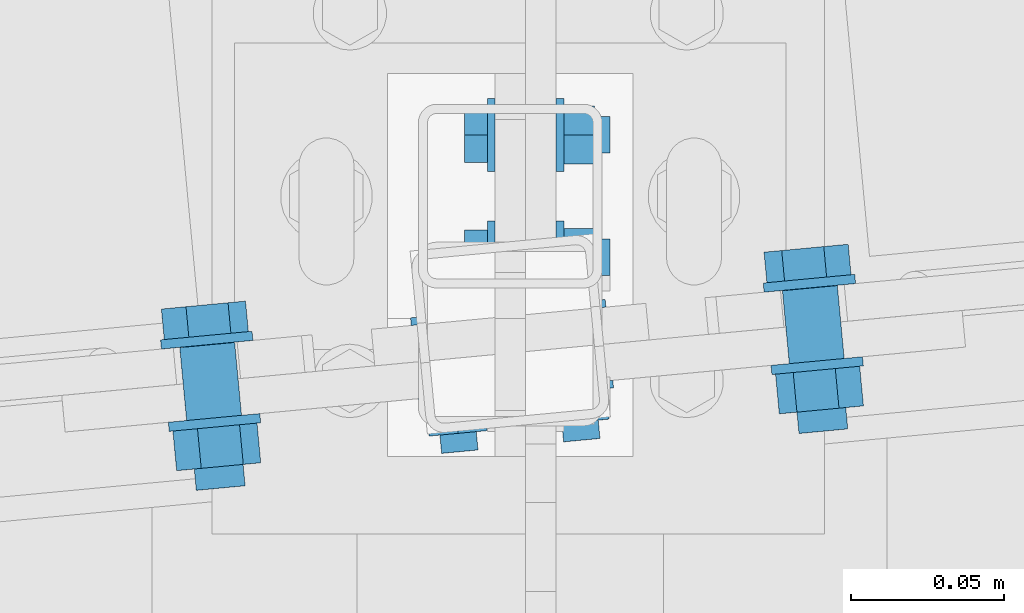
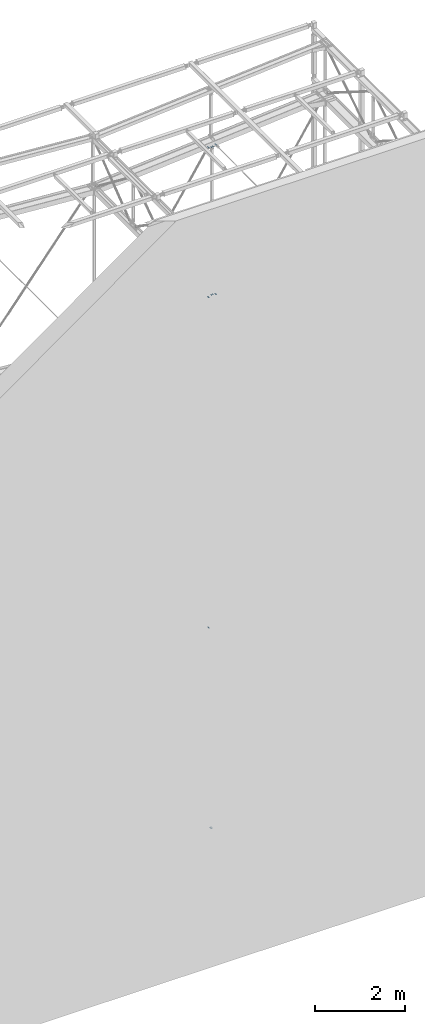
# One storey, part 262 of 271: 8 mechanical fasteners, 7 elements without a shape of their own.
"""IFC2X3 building model written with IfcOpenShell, lengths in millimetres."""

from ifc_helpers import new_model, si_unit, frame, origin_with_axes, origin_2d_with_axis, place, context, subcontext, project, spatial, polyline, circle, outline, extrude, source, transform, mapped, material, type_object, element, aggregate, save


model = new_model("IFC2X3")

# Units and contexts
model_context = context("Model", 3, precision=1e-05, world=origin_with_axes())
body_context = subcontext(model_context, "Body", "Model", "MODEL_VIEW")
ifc_project = project(units=[si_unit("LENGTHUNIT", "METRE", prefix="MILLI"), si_unit("AREAUNIT", "SQUARE_METRE"), si_unit("VOLUMEUNIT", "CUBIC_METRE"), si_unit("MASSUNIT", "GRAM", prefix="KILO"), si_unit("TIMEUNIT", "SECOND"), si_unit("PLANEANGLEUNIT", "RADIAN"), si_unit("SOLIDANGLEUNIT", "STERADIAN"), si_unit("THERMODYNAMICTEMPERATUREUNIT", "DEGREE_CELSIUS"), si_unit("LUMINOUSINTENSITYUNIT", "LUMEN")], contexts=[model_context])

# Site, building, storey
site_placement = place(None, origin_with_axes())
site = spatial("IfcSite", under=ifc_project, at=site_placement, Name="Undefined", CompositionType="ELEMENT")
building_placement = place(site_placement, origin_with_axes())
building = spatial("IfcBuilding", under=site, at=building_placement, Name="Undefined", CompositionType="ELEMENT")
storey_placement = place(building_placement, origin_with_axes())
storey = spatial("IfcBuildingStorey", under=building, at=storey_placement, Name="Undefined", CompositionType="ELEMENT", Elevation=0.0)

# Assembly, mechanical fastener
assembly_1_placement = place(storey_placement, origin_with_axes())
assembly_1 = element("IfcElementAssembly", 1, at=assembly_1_placement, inside=storey, AssemblyPlace="NOTDEFINED", PredefinedType="RIGID_FRAME")
ifc_material = material(Name="Undefined")
mechanical_fastener_type = type_object("IfcMechanicalFastenerType", Name="Bolt assembly")
shared_shape_1 = source(origin_with_axes(), body_context, "Body", "SweptSolid", [
    extrude(circle(Radius=6.5, at=origin_2d_with_axis()), frame((0.0, -5.1, 0.0), z_axis=(0.0, 1.0, 0.0), x_axis=(1.0, 0.0, 0.0)), (0.0, 0.0, 1.0), 10.1),
    extrude(circle(Radius=6.5, at=origin_2d_with_axis()), frame((0.0, -14.9000000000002, 0.0), z_axis=(0.0, 1.0, 0.0), x_axis=(1.0, 0.0, 0.0)), (0.0, 0.0, 1.0), 10.0),
    extrude(outline(polyline([(10.39230484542, 0.0), (5.19615242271, 9.00000000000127), (-5.19615242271, 9.00000000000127), (-10.39230484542, 0.0), (-5.19615242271, -9.00000000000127), (5.19615242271, -9.00000000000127), (10.39230484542, 0.0)])), frame((0.0, -25.0000000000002, 0.0), z_axis=(0.0, 1.0, 0.0), x_axis=(1.0, 0.0, 0.0)), (0.0, 0.0, 1.0), 7.5),
    extrude(circle(Radius=6.0, at=origin_2d_with_axis()), frame((0.0, -17.5000000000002, 0.0), z_axis=(0.0, 1.0, 0.0), x_axis=(1.0, 0.0, 0.0)), (0.0, 0.0, 1.0), 40.0),
    extrude(circle(Radius=12.0, at=origin_2d_with_axis()), frame((0.0, -17.5000000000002, 0.0), z_axis=(0.0, 1.0, 0.0), x_axis=(1.0, 0.0, 0.0)), (0.0, 0.0, 1.0), 2.5),
    extrude(circle(Radius=12.0, at=origin_2d_with_axis()), frame((0.0, 5.00000000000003, 0.0), z_axis=(0.0, 1.0, 0.0), x_axis=(1.0, 0.0, 0.0)), (0.0, 0.0, 1.0), 2.5),
    extrude(outline(polyline([(10.96965511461, 0.0), (5.484827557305, 9.50000000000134), (-5.484827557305, 9.50000000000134), (-10.96965511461, 0.0), (-5.484827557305, -9.50000000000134), (5.484827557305, -9.50000000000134), (10.96965511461, 0.0)])), frame((0.0, 7.50000000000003, 0.0), z_axis=(0.0, 1.0, 0.0), x_axis=(1.0, 0.0, 0.0)), (0.0, 0.0, 1.0), 10.0),
])
mechanical_fastener_1_placement = place(assembly_1_placement, frame((9538.37568709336, 4050.32498425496, 64.6500000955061), z_axis=(0.0, 1.0, 0.0), x_axis=(0.0, 0.0, 1.0)))
mechanical_fastener_1 = element("IfcMechanicalFastener", 2, at=mechanical_fastener_1_placement, type_object=mechanical_fastener_type, material=ifc_material, Name="Bolt assembly", NominalDiameter=12.0, NominalLength=40.0, context=body_context, shape_type="MappedRepresentation", body=[
    mapped(shared_shape_1, transform((0.0, 0.0, -20.0))),
    mapped(shared_shape_1, transform((0.0, 0.0, 20.0))),
])
aggregate(assembly_1, [mechanical_fastener_1])

# Assembly, mechanical fasteners
assembly_2_placement = place(storey_placement, origin_with_axes())
assembly_2 = element("IfcElementAssembly", 3, at=assembly_2_placement, inside=storey, AssemblyPlace="NOTDEFINED", PredefinedType="RIGID_FRAME")
shared_shape_2 = source(origin_with_axes(), body_context, "Body", "SweptSolid", [
    extrude(circle(Radius=6.5, at=origin_2d_with_axis()), frame((0.0, -6.1, 0.0), z_axis=(0.0, 1.0, 0.0), x_axis=(1.0, 0.0, 0.0)), (0.0, 0.0, 1.0), 12.1),
    extrude(circle(Radius=6.5, at=origin_2d_with_axis()), frame((0.0, -17.9, 0.0), z_axis=(0.0, 1.0, 0.0), x_axis=(1.0, 0.0, 0.0)), (0.0, 0.0, 1.0), 12.0),
    extrude(outline(polyline([(10.39230484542, 0.0), (5.19615242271, 9.00000000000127), (-5.19615242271, 9.00000000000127), (-10.39230484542, 0.0), (-5.19615242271, -9.00000000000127), (5.19615242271, -9.00000000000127), (10.39230484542, 0.0)])), frame((0.0, -28.0, 0.0), z_axis=(0.0, 1.0, 0.0), x_axis=(1.0, 0.0, 0.0)), (0.0, 0.0, 1.0), 7.5),
    extrude(circle(Radius=6.0, at=origin_2d_with_axis()), frame((0.0, -20.5, 0.0), z_axis=(0.0, 1.0, 0.0), x_axis=(1.0, 0.0, 0.0)), (0.0, 0.0, 1.0), 45.0),
    extrude(circle(Radius=12.0, at=origin_2d_with_axis()), frame((0.0, -20.5, 0.0), z_axis=(0.0, 1.0, 0.0), x_axis=(1.0, 0.0, 0.0)), (0.0, 0.0, 1.0), 2.5),
    extrude(circle(Radius=12.0, at=origin_2d_with_axis()), frame((0.0, 6.0, 0.0), z_axis=(0.0, 1.0, 0.0), x_axis=(1.0, 0.0, 0.0)), (0.0, 0.0, 1.0), 2.5),
    extrude(outline(polyline([(10.96965511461, 0.0), (5.484827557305, 9.50000000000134), (-5.484827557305, 9.50000000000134), (-10.96965511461, 0.0), (-5.484827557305, -9.50000000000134), (5.484827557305, -9.50000000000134), (10.96965511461, 0.0)])), frame((0.0, 8.5, 0.0), z_axis=(0.0, 1.0, 0.0), x_axis=(1.0, 0.0, 0.0)), (0.0, 0.0, 1.0), 10.0),
])
mechanical_fastener_2_placement = place(assembly_2_placement, frame((9529.52289890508, 3993.16453909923, 14487.6614744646), z_axis=(0.995579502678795, 0.0939225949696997, 0.0), x_axis=(0.0, 0.0, 1.0)))
mechanical_fastener_2 = element("IfcMechanicalFastener", 4, at=mechanical_fastener_2_placement, type_object=mechanical_fastener_type, material=ifc_material, Name="Bolt assembly", NominalDiameter=12.0, NominalLength=45.0, context=body_context, shape_type="MappedRepresentation", body=[
    mapped(shared_shape_2, transform((0.0, 0.0, -20.0))),
    mapped(shared_shape_2, transform((0.0, 0.0, 20.0))),
])
mechanical_fastener_3_placement = place(assembly_2_placement, frame((9529.52149814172, 3993.17938719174, 18481.0373809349), z_axis=(-0.995579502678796, -0.0939225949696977, 0.0), x_axis=(0.0, 0.0, -1.0)))
mechanical_fastener_3 = element("IfcMechanicalFastener", 5, at=mechanical_fastener_3_placement, type_object=mechanical_fastener_type, material=ifc_material, Name="Bolt assembly", NominalDiameter=12.0, NominalLength=45.0, context=body_context, shape_type="MappedRepresentation", body=[
    mapped(shared_shape_2, transform((0.0, 0.0, -20.0))),
    mapped(shared_shape_2, transform((0.0, 0.0, 20.0))),
])
aggregate(assembly_2, [mechanical_fastener_2, mechanical_fastener_3])

# Assembly, mechanical fastener
assembly_3_placement = place(storey_placement, origin_with_axes())
assembly_3 = element("IfcElementAssembly", 6, at=assembly_3_placement, inside=storey, AssemblyPlace="NOTDEFINED", PredefinedType="RIGID_FRAME")
shared_shape_3 = source(origin_with_axes(), body_context, "Body", "SweptSolid", [
    extrude(circle(Radius=9.0, at=origin_2d_with_axis()), frame((0.0, -6.10886097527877, 0.0), z_axis=(0.0, 1.0, 0.0), x_axis=(1.0, 0.0, 0.0)), (0.0, 0.0, 1.0), 12.1),
    extrude(circle(Radius=9.0, at=origin_2d_with_axis()), frame((0.0, -17.9116983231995, 0.0), z_axis=(0.0, 1.0, 0.0), x_axis=(1.0, 0.0, 0.0)), (0.0, 0.0, 1.0), 12.0),
    extrude(outline(polyline([(13.85640646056, 0.0), (6.92820323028, 12.0000000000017), (-6.92820323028, 12.0000000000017), (-13.85640646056, 0.0), (-6.92820323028, -12.0000000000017), (6.92820323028, -12.0000000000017), (13.85640646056, 0.0)])), frame((0.0, -31.0116983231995, 0.0), z_axis=(0.0, 1.0, 0.0), x_axis=(1.0, 0.0, 0.0)), (0.0, 0.0, 1.0), 10.0),
    extrude(circle(Radius=8.0, at=origin_2d_with_axis()), frame((0.0, -21.0116983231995, 0.0), z_axis=(0.0, 1.0, 0.0), x_axis=(1.0, 0.0, 0.0)), (0.0, 0.0, 1.0), 50.0),
    extrude(circle(Radius=15.0, at=origin_2d_with_axis()), frame((0.0, -21.0116983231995, 0.0), z_axis=(0.0, 1.0, 0.0), x_axis=(1.0, 0.0, 0.0)), (0.0, 0.0, 1.0), 3.0),
    extrude(circle(Radius=15.0, at=origin_2d_with_axis()), frame((0.0, 5.99113906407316, 0.0), z_axis=(0.0, 1.0, 0.0), x_axis=(1.0, 0.0, 0.0)), (0.0, 0.0, 1.0), 3.0),
    extrude(outline(polyline([(13.85640646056, 0.0), (6.92820323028, 12.0000000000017), (-6.92820323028, 12.0000000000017), (-13.85640646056, 0.0), (-6.92820323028, -12.0000000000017), (6.92820323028, -12.0000000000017), (13.85640646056, 0.0)])), frame((0.0, 8.99113906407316, 0.0), z_axis=(0.0, 1.0, 0.0), x_axis=(1.0, 0.0, 0.0)), (0.0, 0.0, 1.0), 13.0),
])
mechanical_fastener_4_placement = place(assembly_3_placement, frame((9627.87815488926, 4002.43443657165, 14463.87194111), z_axis=(0.81251863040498, 0.0766527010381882, -0.57787354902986), x_axis=(0.575326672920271, 0.0541946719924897, 0.816126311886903)))
mechanical_fastener_4 = element("IfcMechanicalFastener", 7, at=mechanical_fastener_4_placement, type_object=mechanical_fastener_type, material=ifc_material, Name="Bolt assembly", NominalDiameter=16.0, NominalLength=50.0, context=body_context, shape_type="MappedRepresentation", body=[
    mapped(shared_shape_3, transform((0.0, 0.0, 0.0))),
])
aggregate(assembly_3, [mechanical_fastener_4])

assembly_4_placement = place(storey_placement, origin_with_axes())
assembly_4 = element("IfcElementAssembly", 8, at=assembly_4_placement, inside=storey, AssemblyPlace="NOTDEFINED", PredefinedType="RIGID_FRAME")
mechanical_fastener_5_placement = place(assembly_4_placement, frame((9627.87756334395, 4002.44936120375, 18504.8269107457), z_axis=(-0.812518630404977, -0.0766527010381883, -0.577873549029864), x_axis=(0.575326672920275, 0.0541946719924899, -0.8161263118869)))
mechanical_fastener_5 = element("IfcMechanicalFastener", 9, at=mechanical_fastener_5_placement, type_object=mechanical_fastener_type, material=ifc_material, Name="Bolt assembly", NominalDiameter=16.0, NominalLength=50.0, context=body_context, shape_type="MappedRepresentation", body=[
    mapped(shared_shape_3, transform((0.0, 0.0, 0.0))),
])
aggregate(assembly_4, [mechanical_fastener_5])

assembly_5_placement = place(storey_placement, origin_with_axes())
assembly_5 = element("IfcElementAssembly", 10, at=assembly_5_placement, inside=storey, AssemblyPlace="NOTDEFINED", PredefinedType="RIGID_FRAME")
shared_shape_4 = source(origin_with_axes(), body_context, "Body", "SweptSolid", [
    extrude(circle(Radius=9.0, at=origin_2d_with_axis()), frame((0.0, -6.108183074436, 0.0), z_axis=(0.0, 1.0, 0.0), x_axis=(1.0, 0.0, 0.0)), (0.0, 0.0, 1.0), 12.1),
    extrude(circle(Radius=9.0, at=origin_2d_with_axis()), frame((0.0, -17.9108111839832, 0.0), z_axis=(0.0, 1.0, 0.0), x_axis=(1.0, 0.0, 0.0)), (0.0, 0.0, 1.0), 12.0),
    extrude(outline(polyline([(13.85640646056, 0.0), (6.92820323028, 12.0000000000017), (-6.92820323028, 12.0000000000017), (-13.85640646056, 0.0), (-6.92820323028, -12.0000000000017), (6.92820323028, -12.0000000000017), (13.85640646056, 0.0)])), frame((0.0, -31.0108111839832, 0.0), z_axis=(0.0, 1.0, 0.0), x_axis=(1.0, 0.0, 0.0)), (0.0, 0.0, 1.0), 10.0),
    extrude(circle(Radius=8.0, at=origin_2d_with_axis()), frame((0.0, -21.0108111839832, 0.0), z_axis=(0.0, 1.0, 0.0), x_axis=(1.0, 0.0, 0.0)), (0.0, 0.0, 1.0), 50.0),
    extrude(circle(Radius=15.0, at=origin_2d_with_axis()), frame((0.0, -21.0108111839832, 0.0), z_axis=(0.0, 1.0, 0.0), x_axis=(1.0, 0.0, 0.0)), (0.0, 0.0, 1.0), 3.0),
    extrude(circle(Radius=15.0, at=origin_2d_with_axis()), frame((0.0, 5.99181695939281, 0.0), z_axis=(0.0, 1.0, 0.0), x_axis=(1.0, 0.0, 0.0)), (0.0, 0.0, 1.0), 3.0),
    extrude(outline(polyline([(13.85640646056, 0.0), (6.92820323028, 12.0000000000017), (-6.92820323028, 12.0000000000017), (-13.85640646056, 0.0), (-6.92820323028, -12.0000000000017), (6.92820323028, -12.0000000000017), (13.85640646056, 0.0)])), frame((0.0, 8.99181695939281, 0.0), z_axis=(0.0, 1.0, 0.0), x_axis=(1.0, 0.0, 0.0)), (0.0, 0.0, 1.0), 13.0),
])
mechanical_fastener_6_placement = place(assembly_5_placement, frame((9431.12186560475, 3983.87320332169, 14462.2412136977), z_axis=(0.809177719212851, 0.0763375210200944, 0.58258390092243), x_axis=(-0.580001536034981, -0.0547925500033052, 0.812770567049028)))
mechanical_fastener_6 = element("IfcMechanicalFastener", 11, at=mechanical_fastener_6_placement, type_object=mechanical_fastener_type, material=ifc_material, Name="Bolt assembly", NominalDiameter=16.0, NominalLength=50.0, context=body_context, shape_type="MappedRepresentation", body=[
    mapped(shared_shape_4, transform((0.0, 0.0, 0.0))),
])
aggregate(assembly_5, [mechanical_fastener_6])

assembly_6_placement = place(storey_placement, origin_with_axes())
assembly_6 = element("IfcElementAssembly", 12, at=assembly_6_placement, inside=storey, AssemblyPlace="NOTDEFINED", PredefinedType="RIGID_FRAME")
mechanical_fastener_7_placement = place(assembly_6_placement, frame((9431.12547203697, 3983.88852917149, 18506.2549878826), z_axis=(-0.809596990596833, -0.076377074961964, 0.581995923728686), x_axis=(-0.579416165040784, -0.0547372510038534, -0.813191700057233)))
mechanical_fastener_7 = element("IfcMechanicalFastener", 13, at=mechanical_fastener_7_placement, type_object=mechanical_fastener_type, material=ifc_material, Name="Bolt assembly", NominalDiameter=16.0, NominalLength=50.0, context=body_context, shape_type="MappedRepresentation", body=[
    mapped(shared_shape_4, transform((0.0, 0.0, 0.0))),
])
aggregate(assembly_6, [mechanical_fastener_7])

assembly_7_placement = place(storey_placement, origin_with_axes())
assembly_7 = element("IfcElementAssembly", 14, at=assembly_7_placement, inside=storey, AssemblyPlace="NOTDEFINED", PredefinedType="RIGID_FRAME")
mechanical_fastener_8_placement = place(assembly_7_placement, frame((9431.12547203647, 3983.88852917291, 5546.25498788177), z_axis=(-0.809596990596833, -0.076377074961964, 0.581995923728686), x_axis=(-0.579416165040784, -0.0547372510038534, -0.813191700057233)))
mechanical_fastener_8 = element("IfcMechanicalFastener", 15, at=mechanical_fastener_8_placement, type_object=mechanical_fastener_type, material=ifc_material, Name="Bolt assembly", NominalDiameter=16.0, NominalLength=50.0, context=body_context, shape_type="MappedRepresentation", body=[
    mapped(shared_shape_4, transform((0.0, 0.0, 0.0))),
])
aggregate(assembly_7, [mechanical_fastener_8])

save(model, "model.ifc")
